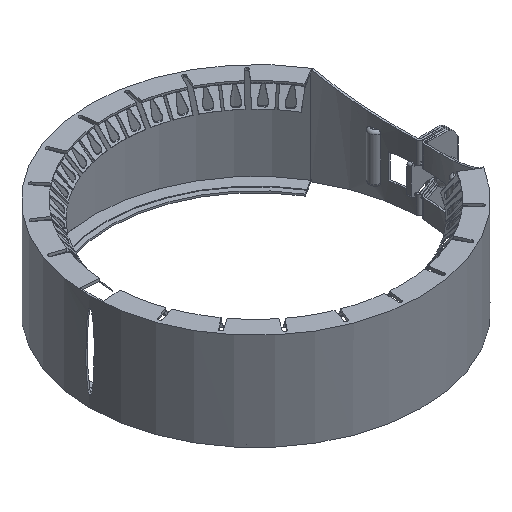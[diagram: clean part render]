
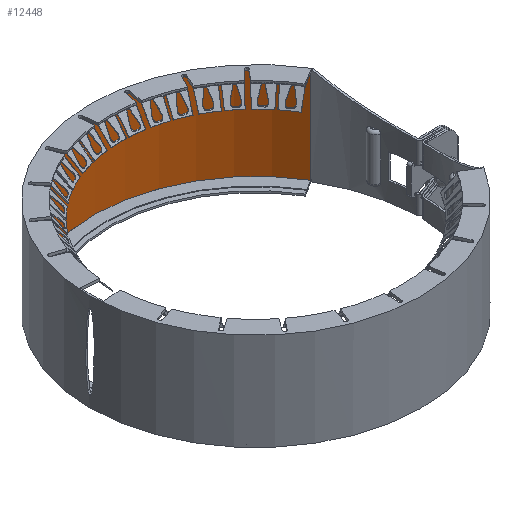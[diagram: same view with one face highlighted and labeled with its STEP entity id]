
A CAD part, isometric view. The second image highlights one B-rep face of the part: STEP entity #12448.
In plain terms, the highlighted cylindrical face has radius 74.6 mm (diameter 149.2 mm), a partial arc.
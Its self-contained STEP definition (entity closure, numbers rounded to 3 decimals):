
#1680=LINE('',#23738,#2563);
#1681=LINE('',#23739,#2564);
#2563=VECTOR('',#16407,42.3);
#2564=VECTOR('',#16408,42.3);
#2997=CIRCLE('',#13449,74.6);
#3010=CIRCLE('',#13485,74.6);
#3186=CYLINDRICAL_SURFACE('',#13486,74.6);
#3777=FACE_OUTER_BOUND('',#4432,.T.);
#4432=EDGE_LOOP('',(#11086,#11087,#11088,#11089));
#5779=VERTEX_POINT('',#23655);
#5780=VERTEX_POINT('',#23657);
#5796=VERTEX_POINT('',#23732);
#5797=VERTEX_POINT('',#23734);
#7558=EDGE_CURVE('',#5779,#5780,#2997,.T.);
#7592=EDGE_CURVE('',#5796,#5797,#3010,.T.);
#7593=EDGE_CURVE('',#5796,#5779,#1680,.T.);
#7594=EDGE_CURVE('',#5780,#5797,#1681,.T.);
#11086=ORIENTED_EDGE('',*,*,#7593,.F.);
#11087=ORIENTED_EDGE('',*,*,#7592,.T.);
#11088=ORIENTED_EDGE('',*,*,#7594,.F.);
#11089=ORIENTED_EDGE('',*,*,#7558,.F.);
#12448=ADVANCED_FACE('',(#3777),#3186,.F.);
#13449=AXIS2_PLACEMENT_3D('',#23658,#16312,#16313);
#13485=AXIS2_PLACEMENT_3D('',#23736,#16403,#16404);
#13486=AXIS2_PLACEMENT_3D('',#23737,#16405,#16406);
#16312=DIRECTION('center_axis',(0.,0.,
-1.));
#16313=DIRECTION('ref_axis',(-0.998,0.07,0.));
#16403=DIRECTION('center_axis',(0.,0.,
-1.));
#16404=DIRECTION('ref_axis',(-0.998,0.07,0.));
#16405=DIRECTION('center_axis',(0.,0.,
-1.));
#16406=DIRECTION('ref_axis',(-0.998,0.07,0.));
#16407=DIRECTION('',(0.,0.,1.));
#16408=DIRECTION('',(0.,0.,-1.));
#23655=CARTESIAN_POINT('',(-74.418,5.208,21.15));
#23657=CARTESIAN_POINT('',(63.785,38.686,21.15));
#23658=CARTESIAN_POINT('Origin',(0.,0.,
21.15));
#23732=CARTESIAN_POINT('',(-74.418,5.208,-21.15));
#23734=CARTESIAN_POINT('',(63.785,38.686,-21.15));
#23736=CARTESIAN_POINT('Origin',(0.,0.,
-21.15));
#23737=CARTESIAN_POINT('Origin',(0.,0.,
0.));
#23738=CARTESIAN_POINT('',(-74.418,5.208,-21.15));
#23739=CARTESIAN_POINT('',(63.785,38.686,-21.15));
